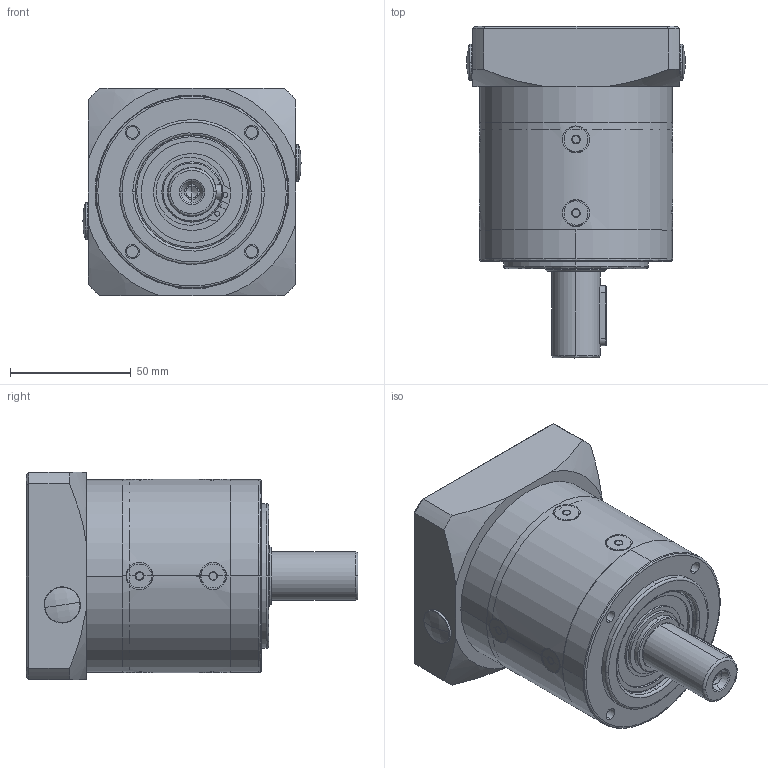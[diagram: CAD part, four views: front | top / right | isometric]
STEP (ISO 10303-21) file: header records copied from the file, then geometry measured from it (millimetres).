
FILE_DESCRIPTION (( 'STEP AP214' ), '1' );
FILE_NAME ('GSLL-080-0_ _-N034_-XX Single Stage.STEP', '2025-08-26T14:55:22', ( '' ), ( '' ), 'SwSTEP 2.0', 'SolidWorks 2020', '' );
FILE_SCHEMA (( 'AUTOMOTIVE_DESIGN' ));
Length unit declared in the file: millimetre
Products named in the file (1): GSLL-080-0_ _-N034_-XX Single Stage
Bounding box: 90.39 x 137.5 x 86 mm (x, y, z)
Volume: 209944.6 mm3; surface area: 120617 mm2
Topology: 40 solids, 40 shells, 950 faces, 2323 edges, 1459 vertices
Faces by surface type: cylinder 328, plane 293, bspline 174, cone 155
Entity records: 40036 total; most frequent: CARTESIAN_POINT 15664, ORIENTED_EDGE 4510, DIRECTION 4360, EDGE_CURVE 2255, AXIS2_PLACEMENT_3D 1807, VERTEX_POINT 1459, EDGE_LOOP 1092, CIRCLE 1030
